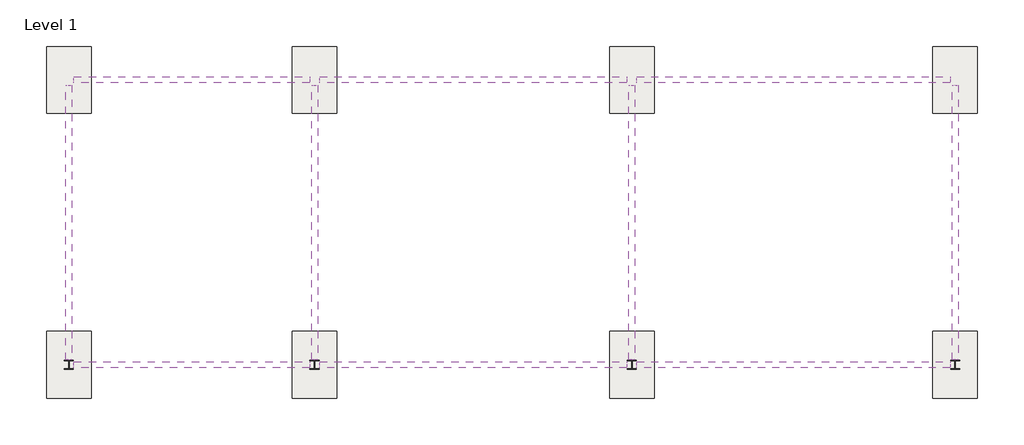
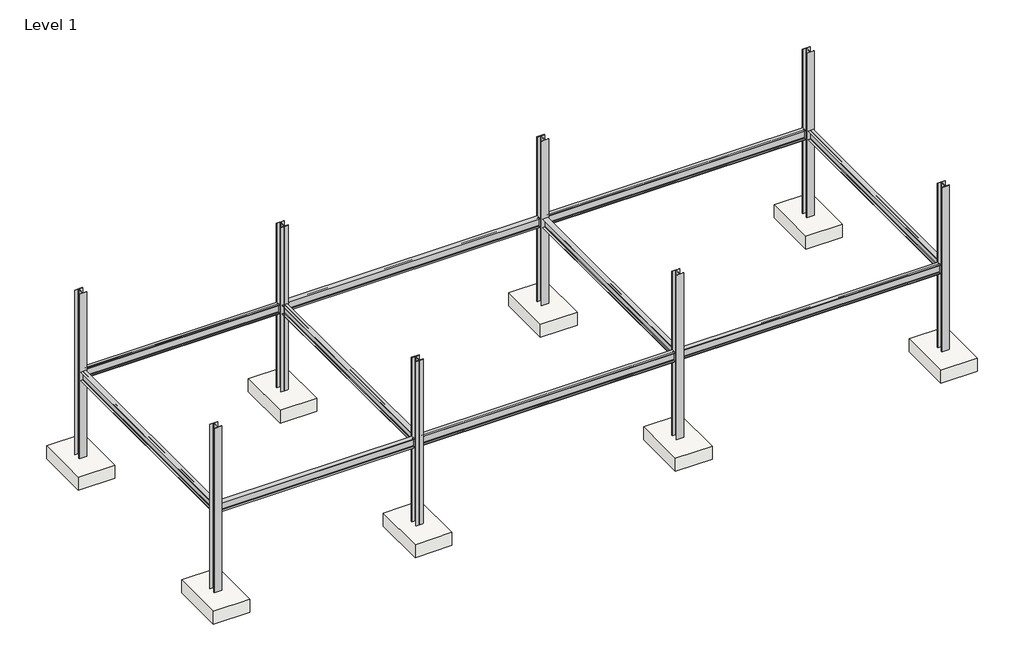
# One storey: 10 beams, 8 columns, 8 slabs.
"""IFC4 building model written with IfcOpenShell, lengths in millimetres."""

import ifcopenshell
import ifcopenshell.guid

model = None  # the IFC model being written
_history = None  # IfcOwnerHistory: only IFC2X3 demands one
_inside = {}  # id of a spatial element -> (the spatial element, [elements in it])
_under = {}  # id of a project, library or spatial element -> (it, [spatial elements below it])
_declared = {}  # id of a project -> (the project, [libraries it declares])
_typed = {}  # id of a type object -> (the type object, [elements of that type])
_made_of = {}  # id of a material, layer set ... -> (it, [elements and type objects made of it])


def new_model(schema):
    """Start an empty IFC model of exactly this schema.

    Asked for "IFC4X3", IfcOpenShell would pick the latest addendum, in which some entities
    have other attributes; the version numbers below select the first issue.
    IFC2X3 requires an IfcOwnerHistory on every rooted entity: one is made here for all.
    """
    global model, _history
    if schema == "IFC4X3":
        model = ifcopenshell.file(schema_version=(4, 3, 0, 0))
    else:
        model = ifcopenshell.file(schema=schema)
    _inside.clear()
    _under.clear()
    _declared.clear()
    _typed.clear()
    _made_of.clear()
    _history = None
    if model.schema == "IFC2X3":
        org = make("IfcOrganization", Name="unknown")
        user = make(
            "IfcPersonAndOrganization",
            ThePerson=make("IfcPerson", FamilyName="unknown"),
            TheOrganization=org,
        )
        app = make(
            "IfcApplication",
            ApplicationDeveloper=org,
            Version="unknown",
            ApplicationFullName="unknown",
            ApplicationIdentifier="unknown",
        )
        _history = make(
            "IfcOwnerHistory",
            OwningUser=user,
            OwningApplication=app,
            ChangeAction="ADDED",
            CreationDate=0,
        )
    return model


def make(cls, **values):
    """One entity of the class cls with the attributes given. An attribute that is None is left unset."""
    return model.create_entity(
        cls, **{name: value for name, value in values.items() if value is not None}
    )


def rooted(cls, **values):
    """An entity with a GlobalId (a new one), such as an element, a storey or a relation."""
    return make(cls, GlobalId=ifcopenshell.guid.new(), OwnerHistory=_history, **values)


def si_unit(unit_type, name, prefix=None):
    """IfcSIUnit, for example si_unit("LENGTHUNIT", "METRE", prefix="MILLI")."""
    return make("IfcSIUnit", UnitType=unit_type, Prefix=prefix, Name=name)


def assignment(units):
    """IfcUnitAssignment: the units of a project."""
    return None if units is None else make("IfcUnitAssignment", Units=units)


def point(xyz):
    """IfcCartesianPoint."""
    return None if xyz is None else make("IfcCartesianPoint", Coordinates=xyz)


def direction(xyz):
    """IfcDirection."""
    return None if xyz is None else make("IfcDirection", DirectionRatios=xyz)


def frame(location, z_axis=None, x_axis=None):
    """IfcAxis2Placement3D, a coordinate frame: its origin and axes. An axis left out is left unset."""
    return make(
        "IfcAxis2Placement3D",
        Location=point(location),
        Axis=direction(z_axis),
        RefDirection=direction(x_axis),
    )


def frame_2d(location, x_axis=None):
    """IfcAxis2Placement2D, a coordinate frame in the plane: its origin and x axis."""
    return make(
        "IfcAxis2Placement2D", Location=point(location), RefDirection=direction(x_axis)
    )


def origin():
    """The frame at (0, 0, 0) with its axes left unset."""
    return frame((0.0, 0.0, 0.0))


def origin_with_axes():
    """The frame at (0, 0, 0) with the z axis (0, 0, 1) and the x axis (1, 0, 0) written out."""
    return frame((0.0, 0.0, 0.0), z_axis=(0.0, 0.0, 1.0), x_axis=(1.0, 0.0, 0.0))


def place(relative_to, where):
    """IfcLocalPlacement: puts the frame where relative to a parent placement (None: the world)."""
    return make(
        "IfcLocalPlacement", PlacementRelTo=relative_to, RelativePlacement=where
    )


def context(
    kind, dimensions, precision=None, world=None, true_north=None, identifier=None
):
    """IfcGeometricRepresentationContext, for example the 3D "Model" context."""
    return make(
        "IfcGeometricRepresentationContext",
        ContextIdentifier=identifier,
        ContextType=kind,
        CoordinateSpaceDimension=dimensions,
        Precision=precision,
        WorldCoordinateSystem=world,
        TrueNorth=true_north,
    )


def project(units=None, contexts=None):
    """IfcProject with its units and contexts."""
    return rooted(
        "IfcProject",
        Name="project",
        RepresentationContexts=contexts,
        UnitsInContext=assignment(units),
    )


def spatial(cls, under=None, at=None, **own):
    """A site, building, storey or space (cls), placed at a placement, below another one or the project."""
    s = rooted(cls, ObjectPlacement=at, **own)
    if under is not None:
        _under.setdefault(under.id(), (under, []))[1].append(s)
    return s


def polyline(points):
    """IfcPolyline through the points."""
    return make("IfcPolyline", Points=[point(p) for p in points])


def circle_curve(where, radius):
    """IfcCircle in the frame where."""
    return make("IfcCircle", Position=where, Radius=radius)


def trimmed(basis, trim1, trim2, sense, master):
    """IfcTrimmedCurve: the piece of a basis curve between two trims."""
    return make(
        "IfcTrimmedCurve",
        BasisCurve=basis,
        Trim1=trim1,
        Trim2=trim2,
        SenseAgreement=sense,
        MasterRepresentation=master,
    )


def segment(curve, same_sense, transition):
    """IfcCompositeCurveSegment."""
    return make(
        "IfcCompositeCurveSegment",
        Transition=transition,
        SameSense=same_sense,
        ParentCurve=curve,
    )


def composite_curve(segments, self_intersect=None):
    """IfcCompositeCurve: segments joined end to end."""
    return make("IfcCompositeCurve", Segments=segments, SelfIntersect=self_intersect)


def outline(outer, holes=None, kind="AREA"):
    """IfcArbitraryClosedProfileDef: a profile drawn as a closed curve; with holes, ...WithVoids."""
    if holes is None:
        return make("IfcArbitraryClosedProfileDef", ProfileType=kind, OuterCurve=outer)
    return make(
        "IfcArbitraryProfileDefWithVoids",
        ProfileType=kind,
        OuterCurve=outer,
        InnerCurves=holes,
    )


def extrude(swept, where, along, depth):
    """IfcExtrudedAreaSolid: the profile swept, set in the frame where, extruded along a direction by depth."""
    return make(
        "IfcExtrudedAreaSolid",
        SweptArea=swept,
        Position=where,
        ExtrudedDirection=direction(along),
        Depth=depth,
    )


def shape(context_of_items, identifier, shape_type, items):
    """IfcShapeRepresentation: the items that make up one representation, for example the "Body"."""
    return make(
        "IfcShapeRepresentation",
        ContextOfItems=context_of_items,
        RepresentationIdentifier=identifier,
        RepresentationType=shape_type,
        Items=items,
    )


def source(mapping_origin, context_of_items, identifier, shape_type, items):
    """IfcRepresentationMap: a shape defined once, which mapped items show again and again."""
    return make(
        "IfcRepresentationMap",
        MappingOrigin=mapping_origin,
        MappedRepresentation=shape(context_of_items, identifier, shape_type, items),
    )


def transform(
    local_origin,
    x_axis=None,
    y_axis=None,
    z_axis=None,
    scale=None,
    scale2=None,
    scale3=None,
    uniform=True,
):
    """IfcCartesianTransformationOperator3D, or its non-uniform kind. x_axis, y_axis, z_axis: its Axis1, 2, 3."""
    if uniform:
        return make(
            "IfcCartesianTransformationOperator3D",
            Axis1=direction(x_axis),
            Axis2=direction(y_axis),
            LocalOrigin=point(local_origin),
            Scale=scale,
            Axis3=direction(z_axis),
        )
    return make(
        "IfcCartesianTransformationOperator3DnonUniform",
        Axis1=direction(x_axis),
        Axis2=direction(y_axis),
        LocalOrigin=point(local_origin),
        Scale=scale,
        Axis3=direction(z_axis),
        Scale2=scale2,
        Scale3=scale3,
    )


def mapped(mapping_source, mapping_target):
    """IfcMappedItem: shows the shape of a source again, moved by a transform."""
    return make(
        "IfcMappedItem", MappingSource=mapping_source, MappingTarget=mapping_target
    )


def made_of(thing, what):
    """Note that an element or type object is made of a material, layer set ...; save() writes the relation."""
    if what is not None:
        _made_of.setdefault(what.id(), (what, []))[1].append(thing)
    return thing


def element(
    cls,
    number,
    at=None,
    inside=None,
    cuts=None,
    type_object=None,
    material=None,
    context=None,
    identifier="Body",
    shape_type=None,
    held_by="IfcProductDefinitionShape",
    body=None,
    shapes=None,
    **own,
):
    """One element of the class cls, such as IfcWall. Its Tag is "e" and its number.

    at: its placement. inside: the storey or other place that contains it. cuts: it is an
    opening in that element (IfcRelVoidsElement). A single representation is given by context,
    identifier, shape_type and body (its items); several are given by shapes. held_by: the class
    of the entity that holds the representations. save() writes the other relations.
    """
    e = rooted(cls, Tag="e%d" % number, ObjectPlacement=at, **own)
    if body is not None:
        shapes = [shape(context, identifier, shape_type, body)]
    if shapes is not None:
        e.Representation = make(held_by, Representations=shapes)
    if inside is not None:
        _inside.setdefault(inside.id(), (inside, []))[1].append(e)
    if cuts is not None:
        rooted(
            "IfcRelVoidsElement", RelatingBuildingElement=cuts, RelatedOpeningElement=e
        )
    if type_object is not None:
        _typed.setdefault(type_object.id(), (type_object, []))[1].append(e)
    return made_of(e, material)


def aggregate(whole, parts):
    """IfcRelAggregates: a whole, such as a stair, and the parts it consists of."""
    return rooted("IfcRelAggregates", RelatingObject=whole, RelatedObjects=parts)


def save(model, path):
    """Write the relations noted so far, then the file.

    IfcRelAggregates (storeys below a building ...), IfcRelContainedInSpatialStructure (elements
    in a storey), IfcRelDefinesByType, IfcRelAssociatesMaterial and IfcRelDeclares: one each for
    every whole, place, type object, material and project.
    """
    for whole, parts in _under.values():
        aggregate(whole, parts)
    for where, things in _inside.values():
        rooted(
            "IfcRelContainedInSpatialStructure",
            RelatedElements=things,
            RelatingStructure=where,
        )
    for kind, things in _typed.values():
        rooted("IfcRelDefinesByType", RelatedObjects=things, RelatingType=kind)
    for what, things in _made_of.values():
        rooted("IfcRelAssociatesMaterial", RelatedObjects=things, RelatingMaterial=what)
    for by, libraries in _declared.values():
        rooted("IfcRelDeclares", RelatingContext=by, RelatedDefinitions=libraries)
    model.write(path)


def w_wide_flange_w12x26_3f871b78(model_context):
    return source(origin(), model_context, "Body", "SweptSolid", [
        extrude(outline(composite_curve([segment(polyline([(82.4011719, -145.5539063), (82.4011719, -155.178125), (-82.4011719, -155.178125), (-82.4011719, -145.5539063), (-20.2902344, -145.5539063)]), True, "CONTINUOUS"), segment(trimmed(circle_curve(frame_2d((-20.2902344, -128.190625)), 17.3632812), [point((-20.2902344, -145.5539063))], [point((-2.9269531, -128.190625))], True, "CARTESIAN"), True, "CONTINUOUS"), segment(polyline([(-2.9269531, -128.190625), (-2.9269531, 128.190625)]), True, "CONTINUOUS"), segment(trimmed(circle_curve(frame_2d((-20.2902344, 128.190625)), 17.3632812), [point((-2.9269531, 128.190625))], [point((-20.2902344, 145.5539062))], True, "CARTESIAN"), True, "CONTINUOUS"), segment(polyline([(-20.2902344, 145.5539062), (-82.4011719, 145.5539062), (-82.4011719, 155.178125), (82.4011719, 155.178125), (82.4011719, 145.5539062), (20.2902344, 145.5539062)]), True, "CONTINUOUS"), segment(trimmed(circle_curve(frame_2d((20.2902344, 128.190625)), 17.3632812), [point((20.2902344, 145.5539062))], [point((2.9269531, 128.190625))], True, "CARTESIAN"), True, "CONTINUOUS"), segment(polyline([(2.9269531, 128.190625), (2.9269531, -128.190625)]), True, "CONTINUOUS"), segment(trimmed(circle_curve(frame_2d((20.2902344, -128.190625)), 17.3632812), [point((2.9269531, -128.190625))], [point((20.2902344, -145.5539063))], True, "CARTESIAN"), True, "CONTINUOUS"), segment(polyline([(20.2902344, -145.5539063), (82.4011719, -145.5539063)]), True, "CONTINUOUS")], self_intersect=False)), frame((-3219.9874869, 0.0, 0.0), z_axis=(1.0, 0.0, 0.0), x_axis=(0.0, 1.0, 0.0)), (0.0, 0.0, 1.0), 6439.9749737),
    ])


def w_wide_flange_w12x26_4810f4f7(model_context):
    return source(origin(), model_context, "Body", "SweptSolid", [
        extrude(outline(composite_curve([segment(polyline([(82.4011719, -145.5539063), (82.4011719, -155.178125), (-82.4011719, -155.178125), (-82.4011719, -145.5539063), (-20.2902344, -145.5539063)]), True, "CONTINUOUS"), segment(trimmed(circle_curve(frame_2d((-20.2902344, -128.190625)), 17.3632812), [point((-20.2902344, -145.5539063))], [point((-2.9269531, -128.190625))], True, "CARTESIAN"), True, "CONTINUOUS"), segment(polyline([(-2.9269531, -128.190625), (-2.9269531, 128.190625)]), True, "CONTINUOUS"), segment(trimmed(circle_curve(frame_2d((-20.2902344, 128.190625)), 17.3632812), [point((-2.9269531, 128.190625))], [point((-20.2902344, 145.5539062))], True, "CARTESIAN"), True, "CONTINUOUS"), segment(polyline([(-20.2902344, 145.5539062), (-82.4011719, 145.5539062), (-82.4011719, 155.178125), (82.4011719, 155.178125), (82.4011719, 145.5539062), (20.2902344, 145.5539062)]), True, "CONTINUOUS"), segment(trimmed(circle_curve(frame_2d((20.2902344, 128.190625)), 17.3632812), [point((20.2902344, 145.5539062))], [point((2.9269531, 128.190625))], True, "CARTESIAN"), True, "CONTINUOUS"), segment(polyline([(2.9269531, 128.190625), (2.9269531, -128.190625)]), True, "CONTINUOUS"), segment(trimmed(circle_curve(frame_2d((20.2902344, -128.190625)), 17.3632812), [point((2.9269531, -128.190625))], [point((20.2902344, -145.5539063))], True, "CARTESIAN"), True, "CONTINUOUS"), segment(polyline([(20.2902344, -145.5539063), (82.4011719, -145.5539063)]), True, "CONTINUOUS")], self_intersect=False)), frame((-3754.7312703, 0.0, 0.0), z_axis=(1.0, 0.0, 0.0), x_axis=(0.0, 1.0, 0.0)), (0.0, 0.0, 1.0), 7509.4625406),
    ])


def w_wide_flange_w12x26_0d1df96e(model_context):
    return source(origin(), model_context, "Body", "SweptSolid", [
        extrude(outline(composite_curve([segment(polyline([(82.4011719, -145.5539063), (82.4011719, -155.178125), (-82.4011719, -155.178125), (-82.4011719, -145.5539063), (-20.2902344, -145.5539063)]), True, "CONTINUOUS"), segment(trimmed(circle_curve(frame_2d((-20.2902344, -128.190625)), 17.3632812), [point((-20.2902344, -145.5539063))], [point((-2.9269531, -128.190625))], True, "CARTESIAN"), True, "CONTINUOUS"), segment(polyline([(-2.9269531, -128.190625), (-2.9269531, 128.190625)]), True, "CONTINUOUS"), segment(trimmed(circle_curve(frame_2d((-20.2902344, 128.190625)), 17.3632812), [point((-2.9269531, 128.190625))], [point((-20.2902344, 145.5539062))], True, "CARTESIAN"), True, "CONTINUOUS"), segment(polyline([(-20.2902344, 145.5539062), (-82.4011719, 145.5539062), (-82.4011719, 155.178125), (82.4011719, 155.178125), (82.4011719, 145.5539062), (20.2902344, 145.5539062)]), True, "CONTINUOUS"), segment(trimmed(circle_curve(frame_2d((20.2902344, 128.190625)), 17.3632812), [point((20.2902344, 145.5539062))], [point((2.9269531, 128.190625))], True, "CARTESIAN"), True, "CONTINUOUS"), segment(polyline([(2.9269531, 128.190625), (2.9269531, -128.190625)]), True, "CONTINUOUS"), segment(trimmed(circle_curve(frame_2d((20.2902344, -128.190625)), 17.3632812), [point((2.9269531, -128.190625))], [point((20.2902344, -145.5539063))], True, "CARTESIAN"), True, "CONTINUOUS"), segment(polyline([(20.2902344, -145.5539063), (82.4011719, -145.5539063)]), True, "CONTINUOUS")], self_intersect=False)), frame((-4196.8125131, 0.0, 0.0), z_axis=(1.0, 0.0, 0.0), x_axis=(0.0, 1.0, 0.0)), (0.0, 0.0, 1.0), 8393.6250263),
    ])


def w_wide_flange_w12x26_08aea776(model_context):
    return source(origin(), model_context, "Body", "SweptSolid", [
        extrude(outline(composite_curve([segment(polyline([(82.4011719, -145.5539063), (82.4011719, -155.178125), (-82.4011719, -155.178125), (-82.4011719, -145.5539063), (-20.2902344, -145.5539063)]), True, "CONTINUOUS"), segment(trimmed(circle_curve(frame_2d((-20.2902344, -128.190625)), 17.3632812), [point((-20.2902344, -145.5539063))], [point((-2.9269531, -128.190625))], True, "CARTESIAN"), True, "CONTINUOUS"), segment(polyline([(-2.9269531, -128.190625), (-2.9269531, 128.190625)]), True, "CONTINUOUS"), segment(trimmed(circle_curve(frame_2d((-20.2902344, 128.190625)), 17.3632812), [point((-2.9269531, 128.190625))], [point((-20.2902344, 145.5539062))], True, "CARTESIAN"), True, "CONTINUOUS"), segment(polyline([(-20.2902344, 145.5539062), (-82.4011719, 145.5539062), (-82.4011719, 155.178125), (82.4011719, 155.178125), (82.4011719, 145.5539062), (20.2902344, 145.5539062)]), True, "CONTINUOUS"), segment(trimmed(circle_curve(frame_2d((20.2902344, 128.190625)), 17.3632812), [point((20.2902344, 145.5539062))], [point((2.9269531, 128.190625))], True, "CARTESIAN"), True, "CONTINUOUS"), segment(polyline([(2.9269531, 128.190625), (2.9269531, -128.190625)]), True, "CONTINUOUS"), segment(trimmed(circle_curve(frame_2d((20.2902344, -128.190625)), 17.3632812), [point((2.9269531, -128.190625))], [point((20.2902344, -145.5539063))], True, "CARTESIAN"), True, "CONTINUOUS"), segment(polyline([(20.2902344, -145.5539063), (82.4011719, -145.5539063)]), True, "CONTINUOUS")], self_intersect=False)), frame((-4279.9, 0.0, 0.0), z_axis=(1.0, 0.0, 0.0), x_axis=(0.0, 1.0, 0.0)), (0.0, 0.0, 1.0), 8559.8),
    ])


def w_wide_flange_column_w10x49_a6c59e3f(model_context):
    return source(origin(), model_context, "Body", "SweptSolid", [
        extrude(outline(composite_curve([segment(polyline([(127.0, 126.7519531), (127.0, 112.5636719), (21.8777344, 112.5636719)]), True, "CONTINUOUS"), segment(trimmed(circle_curve(frame_2d((21.8777344, 95.0019531)), 17.5617188), [point((21.8777344, 112.5636719))], [point((4.3160156, 95.0019531))], True, "CARTESIAN"), True, "CONTINUOUS"), segment(polyline([(4.3160156, 95.0019531), (4.3160156, -95.0019531)]), True, "CONTINUOUS"), segment(trimmed(circle_curve(frame_2d((21.8777344, -95.0019531)), 17.5617187), [point((4.3160156, -95.0019531))], [point((21.8777344, -112.5636719))], True, "CARTESIAN"), True, "CONTINUOUS"), segment(polyline([(21.8777344, -112.5636719), (127.0, -112.5636719), (127.0, -126.7519531), (-127.0, -126.7519531), (-127.0, -112.5636719), (-21.8777344, -112.5636719)]), True, "CONTINUOUS"), segment(trimmed(circle_curve(frame_2d((-21.8777344, -95.0019531)), 17.5617187), [point((-21.8777344, -112.5636719))], [point((-4.3160156, -95.0019531))], True, "CARTESIAN"), True, "CONTINUOUS"), segment(polyline([(-4.3160156, -95.0019531), (-4.3160156, 95.0019531)]), True, "CONTINUOUS"), segment(trimmed(circle_curve(frame_2d((-21.8777344, 95.0019531)), 17.5617188), [point((-4.3160156, 95.0019531))], [point((-21.8777344, 112.5636719))], True, "CARTESIAN"), True, "CONTINUOUS"), segment(polyline([(-21.8777344, 112.5636719), (-127.0, 112.5636719), (-127.0, 126.7519531), (127.0, 126.7519531)]), True, "CONTINUOUS")], self_intersect=False)), origin_with_axes(), (0.0, 0.0, 1.0), 5791.2),
    ])


def slab_5ba74754(model_context):
    return source(origin(), model_context, "Body", "SweptSolid", [
        extrude(outline(polyline([(609.6, 914.4), (609.6, -914.4), (-609.6, -914.4), (-609.6, 914.4), (609.6, 914.4)])), frame((0.0, 0.0, -457.2), z_axis=(0.0, 0.0, 1.0), x_axis=(1.0, 0.0, 0.0)), (0.0, 0.0, 1.0), 457.2),
    ])


model = new_model("IFC4")

# Units and contexts
model_context = context("Model", 3, world=origin())
ifc_project = project(units=[si_unit("LENGTHUNIT", "METRE", prefix="MILLI")], contexts=[model_context])

# Site, building, storey
site = spatial("IfcSite", under=ifc_project)
building = spatial("IfcBuilding", under=site)
storey = spatial("IfcBuildingStorey", under=building, Name="Level 1", Elevation=0.0)

# Beams
placement = place(None, origin())
w_wide_flange_w12x26_shape = w_wide_flange_w12x26_3f871b78(model_context)
element("IfcBeam", 1, ObjectType="W-Wide Flange : W12X26", at=placement, inside=storey, context=model_context, shape_type="MappedRepresentation", body=[
    mapped(w_wide_flange_w12x26_shape, transform((-18444.2117074, 20379.1714933, 2892.821875), x_axis=(1.0, 0.0, 0.0), y_axis=(0.0, 1.0, 0.0), z_axis=(0.0, 0.0, 1.0))),
])
element("IfcBeam", 2, ObjectType="W-Wide Flange : W12X26", at=placement, inside=storey, context=model_context, shape_type="MappedRepresentation", body=[
    mapped(w_wide_flange_w12x26_shape, transform((-18444.2117074, 12590.8050464, 2892.821875), x_axis=(-1.0, 0.0, 0.0), y_axis=(0.0, -1.0, 0.0), z_axis=(0.0, 0.0, 1.0))),
])
w_wide_flange_w12x26_2_shape = w_wide_flange_w12x26_4810f4f7(model_context)
element("IfcBeam", 3, ObjectType="W-Wide Flange : W12X26", at=placement, inside=storey, context=model_context, shape_type="MappedRepresentation", body=[
    mapped(w_wide_flange_w12x26_2_shape, transform((-21803.8991943, 16484.9882699, 2892.821875), x_axis=(0.0, -1.0, 0.0), y_axis=(1.0, 0.0, 0.0), z_axis=(0.0, 0.0, 1.0))),
])
element("IfcBeam", 4, ObjectType="W-Wide Flange : W12X26", at=placement, inside=storey, context=model_context, shape_type="MappedRepresentation", body=[
    mapped(w_wide_flange_w12x26_2_shape, transform((-15084.5242206, 16484.9882699, 2892.821875), x_axis=(0.0, -1.0, 0.0), y_axis=(1.0, 0.0, 0.0), z_axis=(0.0, 0.0, 1.0))),
])
element("IfcBeam", 5, ObjectType="W-Wide Flange : W12X26", at=placement, inside=storey, context=model_context, shape_type="MappedRepresentation", body=[
    mapped(w_wide_flange_w12x26_2_shape, transform((-6411.4991943, 16484.9882699, 2892.821875), x_axis=(0.0, -1.0, 0.0), y_axis=(1.0, 0.0, 0.0), z_axis=(0.0, 0.0, 1.0))),
])
element("IfcBeam", 6, ObjectType="W-Wide Flange : W12X26", at=placement, inside=storey, context=model_context, shape_type="MappedRepresentation", body=[
    mapped(w_wide_flange_w12x26_2_shape, transform((2427.7008057, 16484.9882699, 2892.821875), x_axis=(0.0, 1.0, 0.0), y_axis=(-1.0, 0.0, 0.0), z_axis=(0.0, 0.0, 1.0))),
])
w_wide_flange_w12x26_3_shape = w_wide_flange_w12x26_0d1df96e(model_context)
element("IfcBeam", 7, ObjectType="W-Wide Flange : W12X26", at=placement, inside=storey, context=model_context, shape_type="MappedRepresentation", body=[
    mapped(w_wide_flange_w12x26_3_shape, transform((-10748.0117074, 20379.1714933, 2892.821875), x_axis=(1.0, 0.0, 0.0), y_axis=(0.0, 1.0, 0.0), z_axis=(0.0, 0.0, 1.0))),
])
element("IfcBeam", 8, ObjectType="W-Wide Flange : W12X26", at=placement, inside=storey, context=model_context, shape_type="MappedRepresentation", body=[
    mapped(w_wide_flange_w12x26_3_shape, transform((-10748.0117074, 12590.8050464, 2892.821875), x_axis=(1.0, 0.0, 0.0), y_axis=(0.0, 1.0, 0.0), z_axis=(0.0, 0.0, 1.0))),
])
w_wide_flange_w12x26_4_shape = w_wide_flange_w12x26_08aea776(model_context)
element("IfcBeam", 9, ObjectType="W-Wide Flange : W12X26", at=placement, inside=storey, context=model_context, shape_type="MappedRepresentation", body=[
    mapped(w_wide_flange_w12x26_4_shape, transform((-1991.8991943, 20379.1714933, 2892.821875), x_axis=(1.0, 0.0, 0.0), y_axis=(0.0, 1.0, 0.0), z_axis=(0.0, 0.0, 1.0))),
])
element("IfcBeam", 10, ObjectType="W-Wide Flange : W12X26", at=placement, inside=storey, context=model_context, shape_type="MappedRepresentation", body=[
    mapped(w_wide_flange_w12x26_4_shape, transform((-1991.8991943, 12590.8050464, 2892.821875), x_axis=(1.0, 0.0, 0.0), y_axis=(0.0, 1.0, 0.0), z_axis=(0.0, 0.0, 1.0))),
])

# Columns
w_wide_flange_column_w10x49_shape = w_wide_flange_column_w10x49_a6c59e3f(model_context)
element("IfcColumn", 11, ObjectType="W-Wide Flange-Column : W10X49", at=placement, inside=storey, context=model_context, shape_type="MappedRepresentation", body=[
    mapped(w_wide_flange_column_w10x49_shape, transform((-21803.8991943, 20379.1714933, 0.0), x_axis=(1.0, 0.0, 0.0), y_axis=(0.0, 1.0, 0.0), z_axis=(0.0, 0.0, 1.0))),
])
element("IfcColumn", 12, ObjectType="W-Wide Flange-Column : W10X49", at=placement, inside=storey, context=model_context, shape_type="MappedRepresentation", body=[
    mapped(w_wide_flange_column_w10x49_shape, transform((-21803.8991943, 12590.8050464, 0.0), x_axis=(1.0, 0.0, 0.0), y_axis=(0.0, 1.0, 0.0), z_axis=(0.0, 0.0, 1.0))),
])
element("IfcColumn", 13, ObjectType="W-Wide Flange-Column : W10X49", at=placement, inside=storey, context=model_context, shape_type="MappedRepresentation", body=[
    mapped(w_wide_flange_column_w10x49_shape, transform((-15084.5242206, 20379.1714933, 0.0), x_axis=(1.0, 0.0, 0.0), y_axis=(0.0, 1.0, 0.0), z_axis=(0.0, 0.0, 1.0))),
])
element("IfcColumn", 14, ObjectType="W-Wide Flange-Column : W10X49", at=placement, inside=storey, context=model_context, shape_type="MappedRepresentation", body=[
    mapped(w_wide_flange_column_w10x49_shape, transform((-6411.4991943, 20379.1714933, 0.0), x_axis=(1.0, 0.0, 0.0), y_axis=(0.0, 1.0, 0.0), z_axis=(0.0, 0.0, 1.0))),
])
element("IfcColumn", 15, ObjectType="W-Wide Flange-Column : W10X49", at=placement, inside=storey, context=model_context, shape_type="MappedRepresentation", body=[
    mapped(w_wide_flange_column_w10x49_shape, transform((2427.7008057, 20379.1714933, 0.0), x_axis=(1.0, 0.0, 0.0), y_axis=(0.0, 1.0, 0.0), z_axis=(0.0, 0.0, 1.0))),
])
element("IfcColumn", 16, ObjectType="W-Wide Flange-Column : W10X49", at=placement, inside=storey, context=model_context, shape_type="MappedRepresentation", body=[
    mapped(w_wide_flange_column_w10x49_shape, transform((-15084.5242206, 12590.8050464, 0.0), x_axis=(1.0, 0.0, 0.0), y_axis=(0.0, 1.0, 0.0), z_axis=(0.0, 0.0, 1.0))),
])
element("IfcColumn", 17, ObjectType="W-Wide Flange-Column : W10X49", at=placement, inside=storey, context=model_context, shape_type="MappedRepresentation", body=[
    mapped(w_wide_flange_column_w10x49_shape, transform((-6411.4991943, 12590.8050464, 0.0), x_axis=(1.0, 0.0, 0.0), y_axis=(0.0, 1.0, 0.0), z_axis=(0.0, 0.0, 1.0))),
])
element("IfcColumn", 18, ObjectType="W-Wide Flange-Column : W10X49", at=placement, inside=storey, context=model_context, shape_type="MappedRepresentation", body=[
    mapped(w_wide_flange_column_w10x49_shape, transform((2427.7008057, 12590.8050464, 0.0), x_axis=(1.0, 0.0, 0.0), y_axis=(0.0, 1.0, 0.0), z_axis=(0.0, 0.0, 1.0))),
])

# Slabs
slab_shape = slab_5ba74754(model_context)
element("IfcSlab", 19, ObjectType="Footing-Rectangular : 72\" x 48\" x 18\"", at=placement, inside=storey, context=model_context, shape_type="MappedRepresentation", body=[
    mapped(slab_shape, transform((-21803.8991943, 20379.1714933, 0.0), x_axis=(1.0, 0.0, 0.0), y_axis=(0.0, 1.0, 0.0), z_axis=(0.0, 0.0, 1.0))),
])
element("IfcSlab", 20, ObjectType="Footing-Rectangular : 72\" x 48\" x 18\"", at=placement, inside=storey, context=model_context, shape_type="MappedRepresentation", body=[
    mapped(slab_shape, transform((-21803.8991943, 12590.8050464, 0.0), x_axis=(1.0, 0.0, 0.0), y_axis=(0.0, 1.0, 0.0), z_axis=(0.0, 0.0, 1.0))),
])
element("IfcSlab", 21, ObjectType="Footing-Rectangular : 72\" x 48\" x 18\"", at=placement, inside=storey, context=model_context, shape_type="MappedRepresentation", body=[
    mapped(slab_shape, transform((-15084.5242206, 20379.1714933, 0.0), x_axis=(1.0, 0.0, 0.0), y_axis=(0.0, 1.0, 0.0), z_axis=(0.0, 0.0, 1.0))),
])
element("IfcSlab", 22, ObjectType="Footing-Rectangular : 72\" x 48\" x 18\"", at=placement, inside=storey, context=model_context, shape_type="MappedRepresentation", body=[
    mapped(slab_shape, transform((-6411.4991943, 20379.1714933, 0.0), x_axis=(1.0, 0.0, 0.0), y_axis=(0.0, 1.0, 0.0), z_axis=(0.0, 0.0, 1.0))),
])
element("IfcSlab", 23, ObjectType="Footing-Rectangular : 72\" x 48\" x 18\"", at=placement, inside=storey, context=model_context, shape_type="MappedRepresentation", body=[
    mapped(slab_shape, transform((2427.7008057, 20379.1714933, 0.0), x_axis=(1.0, 0.0, 0.0), y_axis=(0.0, 1.0, 0.0), z_axis=(0.0, 0.0, 1.0))),
])
element("IfcSlab", 24, ObjectType="Footing-Rectangular : 72\" x 48\" x 18\"", at=placement, inside=storey, context=model_context, shape_type="MappedRepresentation", body=[
    mapped(slab_shape, transform((-15084.5242206, 12590.8050464, 0.0), x_axis=(1.0, 0.0, 0.0), y_axis=(0.0, 1.0, 0.0), z_axis=(0.0, 0.0, 1.0))),
])
element("IfcSlab", 25, ObjectType="Footing-Rectangular : 72\" x 48\" x 18\"", at=placement, inside=storey, context=model_context, shape_type="MappedRepresentation", body=[
    mapped(slab_shape, transform((-6411.4991943, 12590.8050464, 0.0), x_axis=(1.0, 0.0, 0.0), y_axis=(0.0, 1.0, 0.0), z_axis=(0.0, 0.0, 1.0))),
])
element("IfcSlab", 26, ObjectType="Footing-Rectangular : 72\" x 48\" x 18\"", at=placement, inside=storey, context=model_context, shape_type="MappedRepresentation", body=[
    mapped(slab_shape, transform((2427.7008057, 12590.8050464, 0.0), x_axis=(1.0, 0.0, 0.0), y_axis=(0.0, 1.0, 0.0), z_axis=(0.0, 0.0, 1.0))),
])

save(model, "model.ifc")
